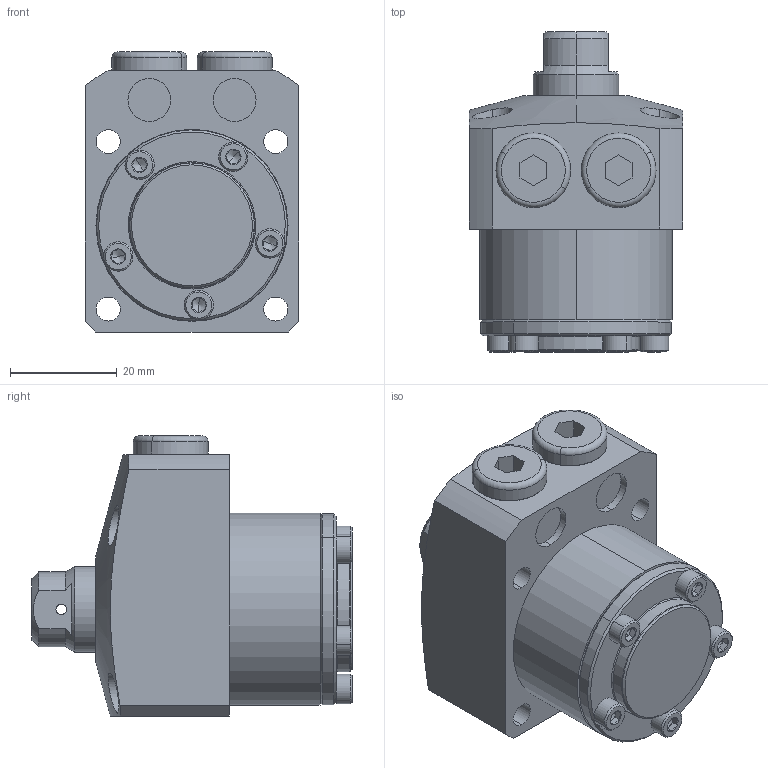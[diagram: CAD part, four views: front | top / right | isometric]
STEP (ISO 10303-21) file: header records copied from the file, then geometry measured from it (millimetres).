
FILE_DESCRIPTION (( 'STEP AP203' ), '1' );
FILE_NAME ('680360-CB-015.step', '2016-11-02T03:16:40', ( 'wxp' ), ( '' ), 'SwSTEP 2.0', 'SolidWorks 2011', '' );
FILE_SCHEMA (( 'CONFIG_CONTROL_DESIGN' ));
Length unit declared in the file: millimetre
Products named in the file (6): 680360-CB-015; 葩璃 LL036-15-5^680360-CB-015; 葩璃 LL036-15-4^680360-CB-015; 葩璃 LL036-15-3^680360-CB-015; 葩璃 LL036-CB-15-2^680360-CB-015; 葩璃 LL036-15-1^680360-CB-015
Assembly tree (10 placements, depth 2):
  680360-CB-015
    葩璃 LL036-CB-15-2^680360-CB-015
    葩璃 LL036-15-1^680360-CB-015
    葩璃 LL036-15-4^680360-CB-015  x5
    葩璃 LL036-15-5^680360-CB-015  x2
    葩璃 LL036-15-3^680360-CB-015
Bounding box: 40 x 60 x 52.5 mm (x, y, z)
Volume: 65890.9 mm3; surface area: 19056.6 mm2
Topology: 10 solids, 10 shells, 316 faces, 627 edges, 349 vertices
Faces by surface type: plane 125, cylinder 91, cone 84, torus 16
Entity records: 5733 total; most frequent: CARTESIAN_POINT 1223, DIRECTION 863, ORIENTED_EDGE 710, AXIS2_PLACEMENT_3D 361, EDGE_CURVE 355, VERTEX_POINT 217, EDGE_LOOP 206, CIRCLE 182
